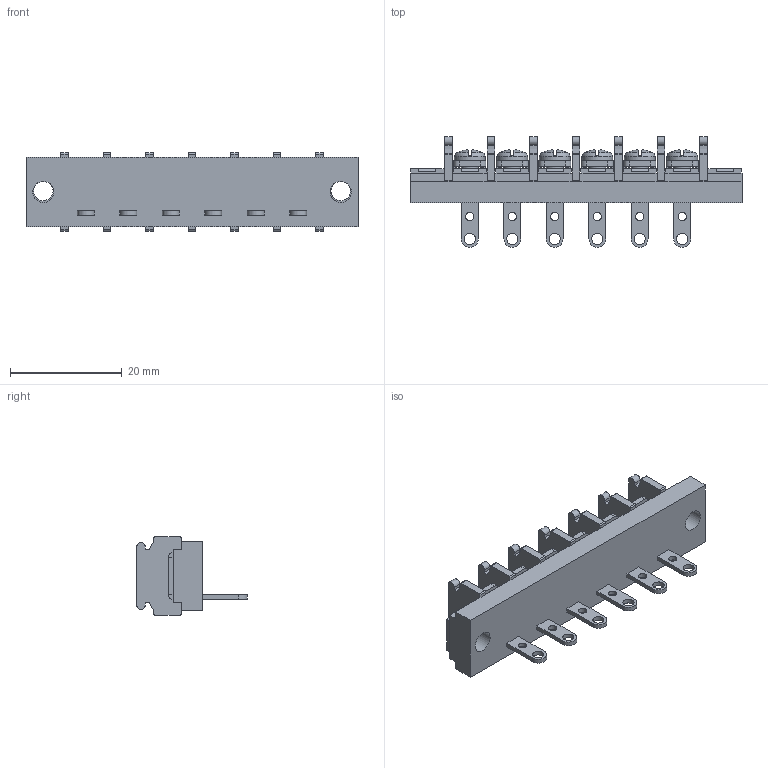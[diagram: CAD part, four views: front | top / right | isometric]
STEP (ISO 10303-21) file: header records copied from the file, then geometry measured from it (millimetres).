
FILE_DESCRIPTION(/* description */ ('Alibre Inc.'),/* implementation_level */ '2;1');
FILE_NAME(/* name */ 'export0',/* time_stamp */ '2015-10-23T20:00:52+09:00',/* author */ (''),/* organization */ (''),/* preprocessor_version */ 'ST-DEVELOPER v14',/* originating_system */ 'Alibre',/* authorisation */ '');
FILE_SCHEMA (('CONFIG_CONTROL_DESIGN'));
Length unit declared in the file: centimetre
Products named in the file (1): ID_1
Bounding box: 59.54 x 19.8 x 14 mm (x, y, z)
Volume: 5279.4 mm3; surface area: 5227.9 mm2
Topology: 1 solids, 17 shells, 1148 faces, 3118 edges, 2050 vertices
Faces by surface type: plane 874, cylinder 122, bspline 104, cone 24, torus 12, sphere 12
Full cylindrical faces by diameter (mm): 1.5 x6, 2 x6, 3 x6, 3.5 x2, 3.8 x2, 5.5 x6
Entity records: 34411 total; most frequent: CARTESIAN_POINT 7571, ORIENTED_EDGE 6100, DIRECTION 4232, EDGE_CURVE 3050, VECTOR 2228, LINE 2228, VERTEX_POINT 2022, AXIS2_PLACEMENT_3D 1401
